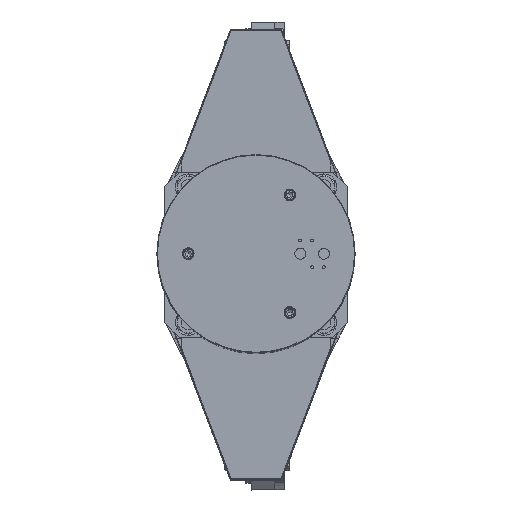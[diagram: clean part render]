
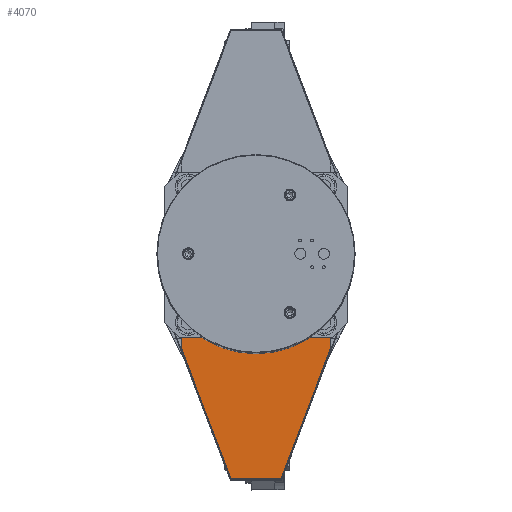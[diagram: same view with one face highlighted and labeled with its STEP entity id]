
A CAD part, top view. The second image highlights one B-rep face of the part: STEP entity #4070.
In plain terms, the highlighted planar face has unit normal (0, 0, 1).
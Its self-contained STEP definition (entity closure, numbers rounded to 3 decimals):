
#4070=ADVANCED_FACE('',(#12744),#12745,.T.);
#12744=FACE_OUTER_BOUND('',#22425,.T.);
#12745=PLANE('',#22426);
#22425=EDGE_LOOP('',(#54509,#54510,#54511,#54512,#54513,#54514));
#22426=AXIS2_PLACEMENT_3D('',#54515,#54516,#54517);
#54509=ORIENTED_EDGE('',*,*,#66118,.T.);
#54510=ORIENTED_EDGE('',*,*,#66141,.F.);
#54511=ORIENTED_EDGE('',*,*,#66127,.T.);
#54512=ORIENTED_EDGE('',*,*,#66131,.T.);
#54513=ORIENTED_EDGE('',*,*,#66187,.T.);
#54514=ORIENTED_EDGE('',*,*,#66132,.F.);
#54515=CARTESIAN_POINT('',(42.266,-259.374,1226.75));
#54516=DIRECTION('',(0.,0.,1.));
#54517=DIRECTION('',(0.,1.,0.));
#66118=EDGE_CURVE('',#83073,#83074,#83075,.T.);
#66127=EDGE_CURVE('',#83090,#83091,#83092,.T.);
#66131=EDGE_CURVE('',#83091,#83095,#83097,.T.);
#66132=EDGE_CURVE('',#83073,#83098,#83099,.T.);
#66141=EDGE_CURVE('',#83090,#83074,#83112,.T.);
#66187=EDGE_CURVE('',#83095,#83098,#83182,.T.);
#83073=VERTEX_POINT('',#116013);
#83074=VERTEX_POINT('',#116014);
#83075=LINE('',#116015,#116016);
#83090=VERTEX_POINT('',#116039);
#83091=VERTEX_POINT('',#116040);
#83092=LINE('',#116041,#116042);
#83095=VERTEX_POINT('',#116047);
#83097=LINE('',#116050,#116051);
#83098=VERTEX_POINT('',#116052);
#83099=LINE('',#116053,#116054);
#83112=LINE('',#116071,#116072);
#83182=LINE('',#116171,#116172);
#116013=CARTESIAN_POINT('',(-126.009,-159.349,1226.75));
#116014=CARTESIAN_POINT('',(-42.284,-379.349,1226.75));
#116015=CARTESIAN_POINT('',(-77.809,-286.003,1226.75));
#116016=VECTOR('',#134191,10.);
#116039=CARTESIAN_POINT('',(42.266,-379.349,1226.75));
#116040=CARTESIAN_POINT('',(125.991,-159.349,1226.75));
#116041=CARTESIAN_POINT('',(83.138,-271.95,1226.75));
#116042=VECTOR('',#134200,10.);
#116047=CARTESIAN_POINT('',(125.991,-139.399,1226.75));
#116050=CARTESIAN_POINT('',(125.991,-139.399,1226.75));
#116051=VECTOR('',#134204,10.);
#116052=CARTESIAN_POINT('',(-126.009,-139.399,1226.75));
#116053=CARTESIAN_POINT('',(-126.009,-139.399,1226.75));
#116054=VECTOR('',#134205,10.);
#116071=CARTESIAN_POINT('',(42.266,-379.349,1226.75));
#116072=VECTOR('',#134222,10.);
#116171=CARTESIAN_POINT('',(42.266,-139.399,1226.75));
#116172=VECTOR('',#134300,10.);
#134191=DIRECTION('',(0.356,-0.935,0.));
#134200=DIRECTION('',(0.356,0.935,0.));
#134204=DIRECTION('',(0.,1.,0.));
#134205=DIRECTION('',(0.,1.,0.));
#134222=DIRECTION('',(-1.,0.,0.));
#134300=DIRECTION('',(-1.,0.,0.));
